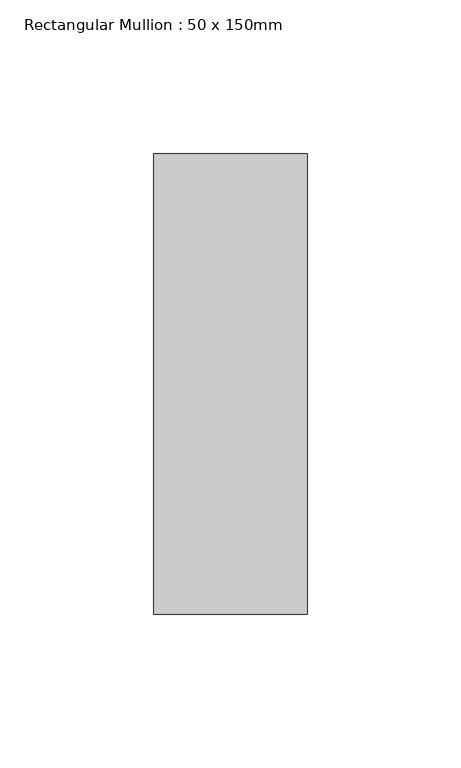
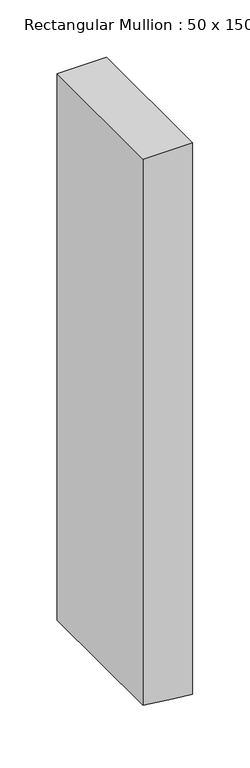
"""IFC4 building model written with IfcOpenShell, lengths in millimetres: member geometry, Rectangular Mullion : 50 x 150mm."""

from ifc_helpers import new_model, si_unit, frame, origin, place, context, project, spatial, polyline, outline, extrude, source, transform, mapped, element, save


def rectangular_mullion_50_x_150mm_a83b262f(model_context):
    return source(origin(), model_context, "Body", "SweptSolid", [
        extrude(outline(polyline([(0.0, 25.0), (0.0, -25.0), (-582.1539511, -25.0), (-585.6341103, 5.6423937), (-587.8326185, 25.0), (0.0, 25.0)])), frame((0.0, -75.0, 0.0), z_axis=(0.0, 1.0, 0.0), x_axis=(0.0, 0.0, 1.0)), (0.0, 0.0, 1.0), 150.0),
    ])


if __name__ == "__main__":
    model = new_model("IFC4")
    model_context = context("Model", 3, world=origin())
    ifc_project = project(units=[si_unit("LENGTHUNIT", "METRE", prefix="MILLI")], contexts=[model_context])
    site = spatial("IfcSite", under=ifc_project)
    building = spatial("IfcBuilding", under=site)
    placement = place(None, origin())
    rectangular_mullion_50_x_150mm_shape = rectangular_mullion_50_x_150mm_a83b262f(model_context)
    element("IfcMember", 1, ObjectType="Rectangular Mullion : 50 x 150mm", at=placement, inside=building, context=model_context, shape_type="MappedRepresentation", body=[
        mapped(rectangular_mullion_50_x_150mm_shape, transform((0.0, 0.0, 0.0), x_axis=(1.0, 0.0, 0.0), y_axis=(0.0, 1.0, 0.0), z_axis=(0.0, 0.0, 1.0))),
    ])
    save(model, "model.ifc")
